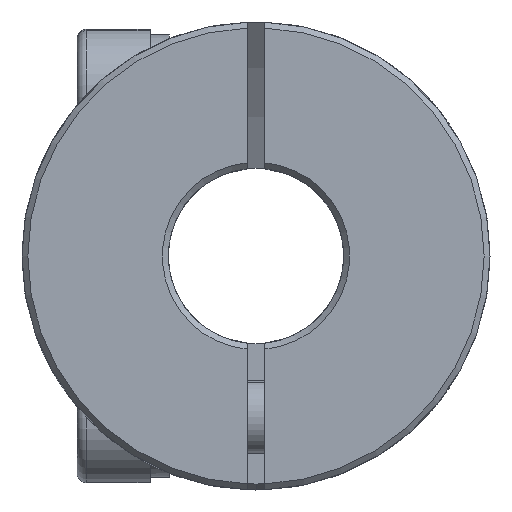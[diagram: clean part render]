
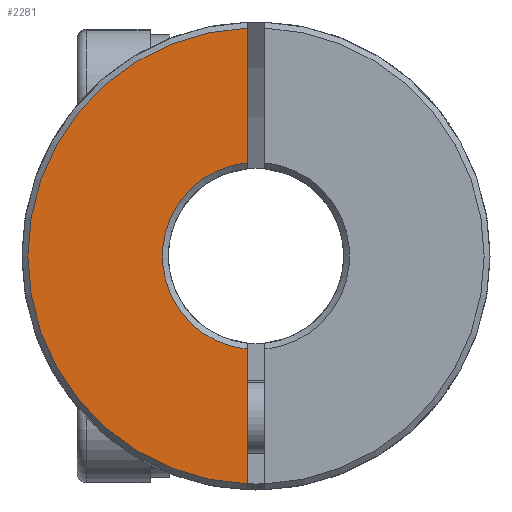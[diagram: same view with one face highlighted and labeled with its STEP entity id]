
A CAD part, front view. The second image highlights one B-rep face of the part: STEP entity #2281.
In plain terms, the highlighted planar face has unit normal (0, -1, 0).
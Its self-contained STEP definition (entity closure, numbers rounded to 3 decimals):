
#35 = EDGE_CURVE ( 'NONE', #6735, #2035, #6173, .T. ) ;
#135 = CIRCLE ( 'NONE', #4695, 3.2 ) ;
#421 = ORIENTED_EDGE ( 'NONE', *, *, #5217, .F. ) ;
#553 = CARTESIAN_POINT ( 'NONE',  ( -0.3, -15.02, -3.186 ) ) ;
#589 = CARTESIAN_POINT ( 'NONE',  ( -0.3, -15.02, 7.794 ) ) ;
#1091 = CIRCLE ( 'NONE', #4131, 7.8 ) ;
#1263 = FACE_OUTER_BOUND ( 'NONE', #3463, .T. ) ;
#1282 = CARTESIAN_POINT ( 'NONE',  ( 0., -15.02, 0. ) ) ;
#1675 = DIRECTION ( 'NONE',  ( 0., 0., 1. ) ) ;
#1883 = CARTESIAN_POINT ( 'NONE',  ( -0.3, -15.02, -7.794 ) ) ;
#2035 = VERTEX_POINT ( 'NONE', #1883 ) ;
#2082 = AXIS2_PLACEMENT_3D ( 'NONE', #5949, #7121, #3563 ) ;
#2106 = VECTOR ( 'NONE', #6115, 1000. ) ;
#2238 = DIRECTION ( 'NONE',  ( 0., 0., -1. ) ) ;
#2281 = ADVANCED_FACE ( 'NONE', ( #1263 ), #6529, .F. ) ;
#2764 = ORIENTED_EDGE ( 'NONE', *, *, #7190, .T. ) ;
#2877 = CARTESIAN_POINT ( 'NONE',  ( 0., -15.02, 0. ) ) ;
#3353 = VERTEX_POINT ( 'NONE', #4062 ) ;
#3438 = CARTESIAN_POINT ( 'NONE',  ( -0.3, -15.02, 0. ) ) ;
#3463 = EDGE_LOOP ( 'NONE', ( #421, #4030, #3927, #2764 ) ) ;
#3563 = DIRECTION ( 'NONE',  ( 0., 0., 1. ) ) ;
#3758 = LINE ( 'NONE', #3808, #2106 ) ;
#3763 = DIRECTION ( 'NONE',  ( 0., 0., 1. ) ) ;
#3808 = CARTESIAN_POINT ( 'NONE',  ( -0.3, -15.02, 0. ) ) ;
#3927 = ORIENTED_EDGE ( 'NONE', *, *, #35, .F. ) ;
#4030 = ORIENTED_EDGE ( 'NONE', *, *, #5585, .T. ) ;
#4062 = CARTESIAN_POINT ( 'NONE',  ( -0.3, -15.02, 3.186 ) ) ;
#4131 = AXIS2_PLACEMENT_3D ( 'NONE', #1282, #7364, #3763 ) ;
#4145 = VECTOR ( 'NONE', #2238, 1000. ) ;
#4662 = DIRECTION ( 'NONE',  ( 0., 1., 0. ) ) ;
#4695 = AXIS2_PLACEMENT_3D ( 'NONE', #2877, #4662, #1675 ) ;
#5217 = EDGE_CURVE ( 'NONE', #7422, #3353, #3758, .T. ) ;
#5585 = EDGE_CURVE ( 'NONE', #7422, #2035, #1091, .T. ) ;
#5949 = CARTESIAN_POINT ( 'NONE',  ( 0., -15.02, 0. ) ) ;
#6115 = DIRECTION ( 'NONE',  ( 0., 0., -1. ) ) ;
#6173 = LINE ( 'NONE', #3438, #4145 ) ;
#6529 = PLANE ( 'NONE',  #2082 ) ;
#6735 = VERTEX_POINT ( 'NONE', #553 ) ;
#7121 = DIRECTION ( 'NONE',  ( 0., 1., 0. ) ) ;
#7190 = EDGE_CURVE ( 'NONE', #6735, #3353, #135, .T. ) ;
#7364 = DIRECTION ( 'NONE',  ( 0., -1., 0. ) ) ;
#7422 = VERTEX_POINT ( 'NONE', #589 ) ;
